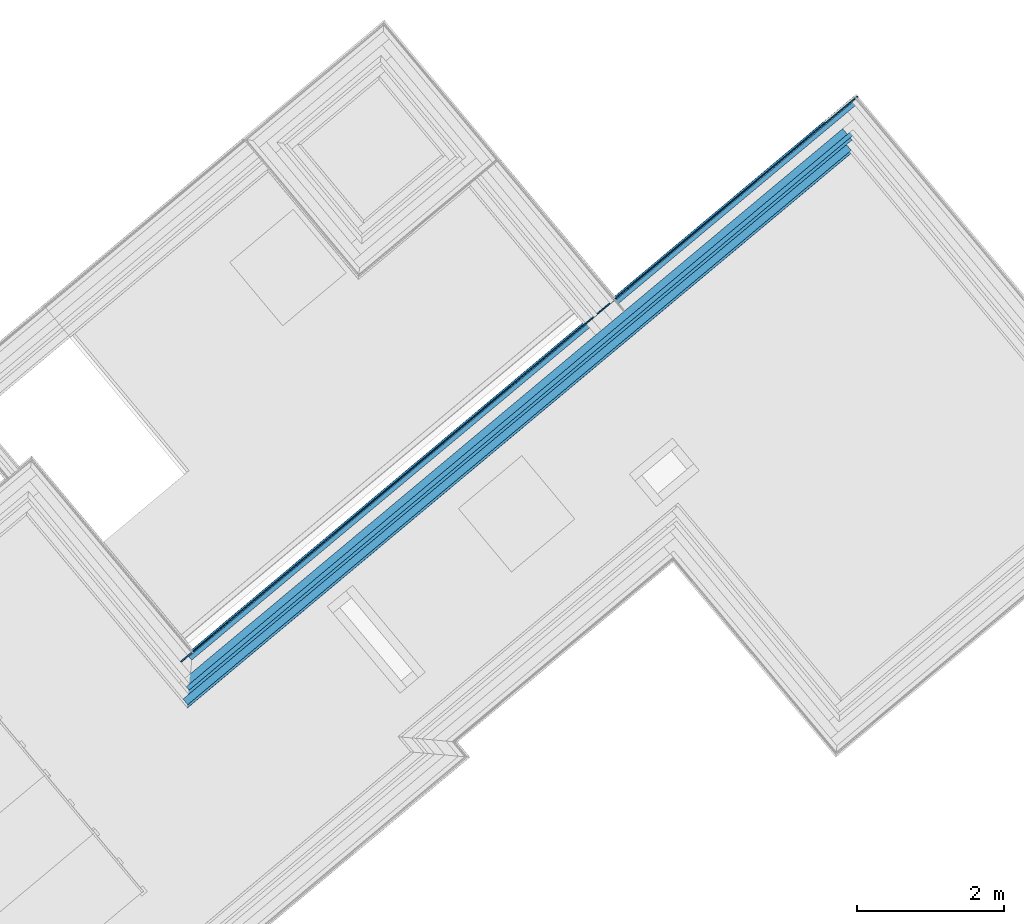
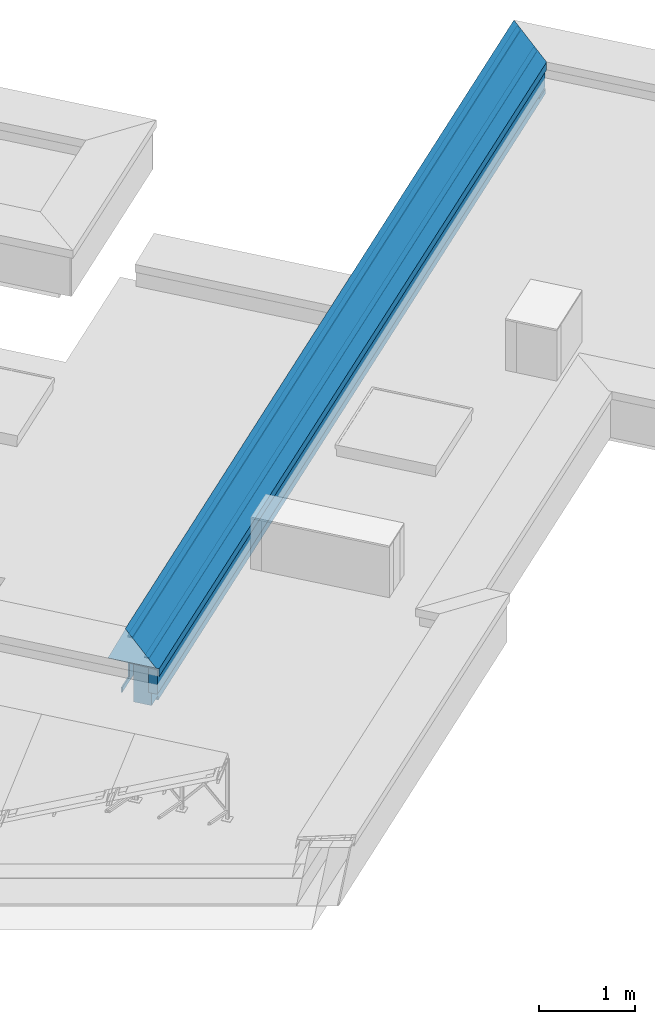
# One storey, part 7 of 15: 7 building element parts, 1 element without a shape of its own.
"""IFC4 building model written with IfcOpenShell, lengths in metres."""

import ifcopenshell
import ifcopenshell.guid

model = None  # the IFC model being written
_history = None  # IfcOwnerHistory: only IFC2X3 demands one
_inside = {}  # id of a spatial element -> (the spatial element, [elements in it])
_under = {}  # id of a project, library or spatial element -> (it, [spatial elements below it])
_declared = {}  # id of a project -> (the project, [libraries it declares])
_typed = {}  # id of a type object -> (the type object, [elements of that type])
_made_of = {}  # id of a material, layer set ... -> (it, [elements and type objects made of it])


def new_model(schema):
    """Start an empty IFC model of exactly this schema.

    Asked for "IFC4X3", IfcOpenShell would pick the latest addendum, in which some entities
    have other attributes; the version numbers below select the first issue.
    IFC2X3 requires an IfcOwnerHistory on every rooted entity: one is made here for all.
    """
    global model, _history
    if schema == "IFC4X3":
        model = ifcopenshell.file(schema_version=(4, 3, 0, 0))
    else:
        model = ifcopenshell.file(schema=schema)
    _inside.clear()
    _under.clear()
    _declared.clear()
    _typed.clear()
    _made_of.clear()
    _history = None
    if model.schema == "IFC2X3":
        org = make("IfcOrganization", Name="unknown")
        user = make(
            "IfcPersonAndOrganization",
            ThePerson=make("IfcPerson", FamilyName="unknown"),
            TheOrganization=org,
        )
        app = make(
            "IfcApplication",
            ApplicationDeveloper=org,
            Version="unknown",
            ApplicationFullName="unknown",
            ApplicationIdentifier="unknown",
        )
        _history = make(
            "IfcOwnerHistory",
            OwningUser=user,
            OwningApplication=app,
            ChangeAction="ADDED",
            CreationDate=0,
        )
    return model


def make(cls, **values):
    """One entity of the class cls with the attributes given. An attribute that is None is left unset."""
    return model.create_entity(
        cls, **{name: value for name, value in values.items() if value is not None}
    )


def entity(cls, *values):
    """Any entity or typed value of the class cls, its attributes in the order of the schema. None: left unset."""
    e = model.create_entity(cls)
    for i, value in enumerate(values):
        if value is not None:
            e[i] = value
    return e


def rooted(cls, **values):
    """An entity with a GlobalId (a new one), such as an element, a storey or a relation."""
    return make(cls, GlobalId=ifcopenshell.guid.new(), OwnerHistory=_history, **values)


def si_unit(unit_type, name, prefix=None):
    """IfcSIUnit, for example si_unit("LENGTHUNIT", "METRE", prefix="MILLI")."""
    return make("IfcSIUnit", UnitType=unit_type, Prefix=prefix, Name=name)


def converted_unit(unit_type, name, factor, base, dimensions=None, offset=None):
    """IfcConversionBasedUnit, such as the inch: factor (a typed value) times the base unit."""
    return make(
        "IfcConversionBasedUnit"
        if offset is None
        else "IfcConversionBasedUnitWithOffset",
        ConversionOffset=offset,
        Dimensions=None
        if dimensions is None
        else entity("IfcDimensionalExponents", *dimensions),
        UnitType=unit_type,
        Name=name,
        ConversionFactor=make(
            "IfcMeasureWithUnit", ValueComponent=factor, UnitComponent=base
        ),
    )


def derived_unit(unit_type, elements):
    """IfcDerivedUnit: a product of units, each with its exponent."""
    return make(
        "IfcDerivedUnit",
        Elements=[
            make("IfcDerivedUnitElement", Unit=unit, Exponent=power)
            for unit, power in elements
        ],
        UnitType=unit_type,
    )


def assignment(units):
    """IfcUnitAssignment: the units of a project."""
    return None if units is None else make("IfcUnitAssignment", Units=units)


def point(xyz):
    """IfcCartesianPoint."""
    return None if xyz is None else make("IfcCartesianPoint", Coordinates=xyz)


def direction(xyz):
    """IfcDirection."""
    return None if xyz is None else make("IfcDirection", DirectionRatios=xyz)


def frame(location, z_axis=None, x_axis=None):
    """IfcAxis2Placement3D, a coordinate frame: its origin and axes. An axis left out is left unset."""
    return make(
        "IfcAxis2Placement3D",
        Location=point(location),
        Axis=direction(z_axis),
        RefDirection=direction(x_axis),
    )


def origin_with_axes():
    """The frame at (0, 0, 0) with the z axis (0, 0, 1) and the x axis (1, 0, 0) written out."""
    return frame((0.0, 0.0, 0.0), z_axis=(0.0, 0.0, 1.0), x_axis=(1.0, 0.0, 0.0))


def place(relative_to, where):
    """IfcLocalPlacement: puts the frame where relative to a parent placement (None: the world)."""
    return make(
        "IfcLocalPlacement", PlacementRelTo=relative_to, RelativePlacement=where
    )


def context(
    kind, dimensions, precision=None, world=None, true_north=None, identifier=None
):
    """IfcGeometricRepresentationContext, for example the 3D "Model" context."""
    return make(
        "IfcGeometricRepresentationContext",
        ContextIdentifier=identifier,
        ContextType=kind,
        CoordinateSpaceDimension=dimensions,
        Precision=precision,
        WorldCoordinateSystem=world,
        TrueNorth=true_north,
    )


def subcontext(parent, identifier, kind, view, scale=None):
    """IfcGeometricRepresentationSubContext, for example "Body" below "Model"."""
    return make(
        "IfcGeometricRepresentationSubContext",
        ContextIdentifier=identifier,
        ContextType=kind,
        ParentContext=parent,
        TargetScale=scale,
        TargetView=view,
    )


def project(units=None, contexts=None):
    """IfcProject with its units and contexts."""
    return rooted(
        "IfcProject",
        Name="project",
        RepresentationContexts=contexts,
        UnitsInContext=assignment(units),
    )


def spatial(cls, under=None, at=None, **own):
    """A site, building, storey or space (cls), placed at a placement, below another one or the project."""
    s = rooted(cls, ObjectPlacement=at, **own)
    if under is not None:
        _under.setdefault(under.id(), (under, []))[1].append(s)
    return s


def point_list(points):
    """IfcCartesianPointList2D or 3D."""
    cls = (
        "IfcCartesianPointList2D" if len(points[0]) == 2 else "IfcCartesianPointList3D"
    )
    return make(cls, CoordList=points)


def polygons(points, faces, closed=None, point_numbers=None):
    """IfcPolygonalFaceSet: a face is its outer loop, then its inner loops; points numbered from 1."""
    made = []
    for loops in faces:
        if len(loops) == 1:
            made.append(make("IfcIndexedPolygonalFace", CoordIndex=loops[0]))
        else:
            made.append(
                make(
                    "IfcIndexedPolygonalFaceWithVoids",
                    CoordIndex=loops[0],
                    InnerCoordIndices=loops[1:],
                )
            )
    return make(
        "IfcPolygonalFaceSet",
        Coordinates=point_list(points),
        Closed=closed,
        Faces=made,
        PnIndex=point_numbers,
    )


def shape(context_of_items, identifier, shape_type, items):
    """IfcShapeRepresentation: the items that make up one representation, for example the "Body"."""
    return make(
        "IfcShapeRepresentation",
        ContextOfItems=context_of_items,
        RepresentationIdentifier=identifier,
        RepresentationType=shape_type,
        Items=items,
    )


def material(Name=None, Category=None):
    """IfcMaterial."""
    return make("IfcMaterial", Name=Name, Category=Category)


def made_of(thing, what):
    """Note that an element or type object is made of a material, layer set ...; save() writes the relation."""
    if what is not None:
        _made_of.setdefault(what.id(), (what, []))[1].append(thing)
    return thing


def type_object(cls, material=None, **own):
    """A type object (cls), such as IfcWallType, which elements share."""
    return made_of(rooted(cls, **own), material)


def element(
    cls,
    number,
    at=None,
    inside=None,
    cuts=None,
    type_object=None,
    material=None,
    context=None,
    identifier="Body",
    shape_type=None,
    held_by="IfcProductDefinitionShape",
    body=None,
    shapes=None,
    **own,
):
    """One element of the class cls, such as IfcWall. Its Tag is "e" and its number.

    at: its placement. inside: the storey or other place that contains it. cuts: it is an
    opening in that element (IfcRelVoidsElement). A single representation is given by context,
    identifier, shape_type and body (its items); several are given by shapes. held_by: the class
    of the entity that holds the representations. save() writes the other relations.
    """
    e = rooted(cls, Tag="e%d" % number, ObjectPlacement=at, **own)
    if body is not None:
        shapes = [shape(context, identifier, shape_type, body)]
    if shapes is not None:
        e.Representation = make(held_by, Representations=shapes)
    if inside is not None:
        _inside.setdefault(inside.id(), (inside, []))[1].append(e)
    if cuts is not None:
        rooted(
            "IfcRelVoidsElement", RelatingBuildingElement=cuts, RelatedOpeningElement=e
        )
    if type_object is not None:
        _typed.setdefault(type_object.id(), (type_object, []))[1].append(e)
    return made_of(e, material)


def aggregate(whole, parts):
    """IfcRelAggregates: a whole, such as a stair, and the parts it consists of."""
    return rooted("IfcRelAggregates", RelatingObject=whole, RelatedObjects=parts)


def save(model, path):
    """Write the relations noted so far, then the file.

    IfcRelAggregates (storeys below a building ...), IfcRelContainedInSpatialStructure (elements
    in a storey), IfcRelDefinesByType, IfcRelAssociatesMaterial and IfcRelDeclares: one each for
    every whole, place, type object, material and project.
    """
    for whole, parts in _under.values():
        aggregate(whole, parts)
    for where, things in _inside.values():
        rooted(
            "IfcRelContainedInSpatialStructure",
            RelatedElements=things,
            RelatingStructure=where,
        )
    for kind, things in _typed.values():
        rooted("IfcRelDefinesByType", RelatedObjects=things, RelatingType=kind)
    for what, things in _made_of.values():
        rooted("IfcRelAssociatesMaterial", RelatedObjects=things, RelatingMaterial=what)
    for by, libraries in _declared.values():
        rooted("IfcRelDeclares", RelatingContext=by, RelatedDefinitions=libraries)
    model.write(path)


model = new_model("IFC4")

# Units and contexts
model_context = context("Model", 3, precision=1e-05, world=origin_with_axes(), true_north=direction((0.0, 1.0)))
body_context = subcontext(model_context, "Body", "Model", "MODEL_VIEW")
ifc_project = project(units=[si_unit("LENGTHUNIT", "METRE"), si_unit("AREAUNIT", "SQUARE_METRE"), si_unit("VOLUMEUNIT", "CUBIC_METRE"), converted_unit("PLANEANGLEUNIT", "DEGREE", entity("IfcPlaneAngleMeasure", 0.0174532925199), si_unit("PLANEANGLEUNIT", "RADIAN"), dimensions=[0, 0, 0, 0, 0, 0, 0]), converted_unit("TIMEUNIT", "Year", entity("IfcTimeMeasure", 31556926.0), si_unit("TIMEUNIT", "SECOND"), dimensions=[0, 0, 1, 0, 0, 0, 0]), si_unit("MASSUNIT", "GRAM", prefix="KILO"), si_unit("THERMODYNAMICTEMPERATUREUNIT", "DEGREE_CELSIUS"), si_unit("LUMINOUSINTENSITYUNIT", "LUMEN"), si_unit("ENERGYUNIT", "JOULE", prefix="MEGA"), derived_unit("THERMALCONDUCTANCEUNIT", [(si_unit("POWERUNIT", "WATT"), 1), (si_unit("LENGTHUNIT", "METRE"), -1), (si_unit("THERMODYNAMICTEMPERATUREUNIT", "KELVIN"), -1)]), derived_unit("SPECIFICHEATCAPACITYUNIT", [(si_unit("ENERGYUNIT", "JOULE"), 1), (si_unit("MASSUNIT", "GRAM", prefix="KILO"), -1), (si_unit("THERMODYNAMICTEMPERATUREUNIT", "KELVIN"), -1)]), derived_unit("MASSDENSITYUNIT", [(si_unit("MASSUNIT", "GRAM", prefix="KILO"), 1), (si_unit("VOLUMEUNIT", "CUBIC_METRE"), -1)])], contexts=[model_context])

# Site, building, storey
site_placement = place(None, frame((-0.00153261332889, -0.00661245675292, 0.0), z_axis=(0.0, 0.0, 1.0), x_axis=(1.0, 0.0, 0.0)))
site = spatial("IfcSite", under=ifc_project, at=site_placement, Name="Site", CompositionType="ELEMENT")
building_placement = place(site_placement, origin_with_axes())
building = spatial("IfcBuilding", under=site, at=building_placement, Name="Building", CompositionType="ELEMENT")
storey_placement = place(building_placement, frame((0.0, 0.0, 11.84), z_axis=(0.0, 0.0, 1.0), x_axis=(1.0, 0.0, 0.0)))
storey = spatial("IfcBuildingStorey", under=building, at=storey_placement, Name="DA", CompositionType="ELEMENT", Elevation=11.84)

# Wall, building element parts
wall_type = type_object("IfcWallType", Name="Bauteil - Attika Stehfalz 574 x 670", PredefinedType="NOTDEFINED")
wall_placement = place(storey_placement, frame((-0.976428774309, 18.8021580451, 0.0), z_axis=(0.0, 0.0, 1.0), x_axis=(0.767365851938, 0.641209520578, 0.0)))
wall = element("IfcWall", 1, at=wall_placement, inside=storey, type_object=wall_type, Name="Wand-004", PredefinedType="NOTDEFINED")
ifc_material_1 = material(Name="Stehfalz")
building_element_part_1_placement = place(wall_placement, origin_with_axes())
building_element_part_1 = element("IfcBuildingElementPart", 2, at=building_element_part_1_placement, material=ifc_material_1, Name="Stehfalz", PredefinedType="NOTDEFINED", context=body_context, shape_type="Tessellation", body=[
    polygons([(0.0, 0.199999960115, -2.38708075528e-09), (0.0, 0.214999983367, -2.38708075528e-09), (0.0, 0.214999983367, -0.06), (0.0, 0.199999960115, -0.06), (0.19999996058, 0.214999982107, 0.0), (0.19999996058, 0.199999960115, 0.0), (5.43008096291, 0.214999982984, -0.06), (0.214999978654, 0.214999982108, 0.0), (0.214999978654, 0.21499998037, 0.235000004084), (0.214999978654, 0.214999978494, 0.488695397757), (0.214999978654, 0.214999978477, 0.491006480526), (0.214999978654, 0.214999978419, 0.498822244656), (0.214999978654, 0.214999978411, 0.5), (0.214999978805, 0.214999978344, 0.509050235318), (0.214999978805, 0.214999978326, 0.51136132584), (0.214999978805, 0.214999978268, 0.519224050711), (0.214999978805, 0.214999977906, 0.55999999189), (12.002251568, 0.214999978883, 0.55999999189), (12.0022489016, 0.214999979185, 0.519224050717), (11.9943856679, 0.214999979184, 0.51922405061), (11.9934753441, 0.214999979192, 0.518219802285), (12.000333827, 0.214999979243, 0.511361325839), (12.0026449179, 0.214999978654, 0.509050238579), (11.9771019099, 0.214999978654, 0.509050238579), (11.9771019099, 0.214999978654, 0.50000001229), (11.962101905, 0.214999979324, 0.5), (11.962101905, 0.214999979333, 0.498822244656), (11.962101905, 0.214999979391, 0.491006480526), (11.962101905, 0.214999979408, 0.488695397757), (11.962101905, 0.214999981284, 0.235000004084), (11.962101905, 0.214999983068, 0.0), (11.7621019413, 0.214999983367, -2.38708075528e-09), (11.7621019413, 0.214999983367, -0.06), (7.69580420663, 0.214999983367, -0.06), (7.69580420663, 0.214999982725, -0.00130460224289), (7.69580420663, 0.214999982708, 0.00100648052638), (7.69580420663, 0.214999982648, 0.00882224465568), (7.69580420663, 0.214999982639, 0.01), (7.69580420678, 0.214999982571, 0.0190502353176), (7.72134721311, 0.214999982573, 0.0190502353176), (7.72230448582, 0.214999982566, 0.0200075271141), (7.722304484, 0.214999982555, 0.0213613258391), (7.722304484, 0.214999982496, 0.0292240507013), (7.722304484, 0.214999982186, 0.0699999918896), (7.722304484, 0.214999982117, 0.0779479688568), (7.722304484, 0.214999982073, 0.0838806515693), (7.722304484, 0.214999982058, 0.0859797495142), (7.722304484, 0.214999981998, 0.0940158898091), (7.722304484, 0.214999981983, 0.0961062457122), (7.722304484, 0.214999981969, 0.0979374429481), (7.722304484, 0.214999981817, 0.118570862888), (7.722304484, 0.214999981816, 0.118602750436), (7.722304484, 0.214999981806, 0.120006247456), (7.68353486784, 0.214999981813, 0.11860275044), (7.68265402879, 0.214999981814, 0.118570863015), (7.14875228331, 0.214999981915, 0.0992431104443), (7.14875228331, 0.214999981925, 0.0979374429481), (7.14875228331, 0.214999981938, 0.0961062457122), (7.14875228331, 0.214999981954, 0.0940158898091), (7.14875228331, 0.214999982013, 0.0859797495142), (7.14875228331, 0.214999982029, 0.0838806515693), (7.14875228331, 0.214999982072, 0.0779479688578), (7.14875228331, 0.214999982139, 0.0699999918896), (7.14875228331, 0.214999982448, 0.0292240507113), (7.14875228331, 0.214999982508, 0.0213613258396), (7.14875228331, 0.214999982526, 0.0190502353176), (7.14875228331, 0.214999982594, 0.00999999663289), (7.14875228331, 0.214999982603, 0.00882224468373), (7.14875228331, 0.214999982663, 0.00100648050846), (7.14875228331, 0.214999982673, -0.00034732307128), (7.14970957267, 0.21499998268, -0.00130459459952), (7.18080417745, 0.214999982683, -0.00130460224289), (7.18080417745, 0.214999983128, -0.06), (5.63008098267, 0.214999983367, -0.06), (5.63008098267, 0.214999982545, 0.0), (5.43008096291, 0.214999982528, 0.0), (5.43007429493, 0.199999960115, -0.06), (5.43007429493, 0.199999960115, 0.0), (5.63007431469, 0.199999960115, 0.0), (5.63007431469, 0.199999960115, -0.06), (7.18079765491, 0.199999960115, -0.06), (7.18079765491, 0.199999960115, -0.00130460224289), (7.14970305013, 0.199999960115, -0.00130459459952), (7.14874576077, 0.199999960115, -0.00034732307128), (7.14874576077, 0.199999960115, 0.00100648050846), (7.14874576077, 0.199999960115, 0.00882224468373), (7.14874576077, 0.199999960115, 0.00999999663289), (7.14874576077, 0.199999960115, 0.0190502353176), (7.14874576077, 0.199999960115, 0.0213613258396), (7.14874576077, 0.199999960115, 0.0292240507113), (7.14874576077, 0.199999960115, 0.0699999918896), (7.14874576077, 0.199999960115, 0.0779479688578), (7.14874576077, 0.199999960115, 0.0838806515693), (7.14874576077, 0.199999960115, 0.0859797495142), (7.14874576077, 0.199999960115, 0.0940158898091), (7.14874576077, 0.199999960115, 0.0961062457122), (7.14874576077, 0.199999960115, 0.0979374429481), (7.14874576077, 0.199999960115, 0.0992431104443), (7.68264750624, 0.199999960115, 0.118570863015), (7.68352834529, 0.199999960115, 0.11860275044), (7.72229796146, 0.199999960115, 0.120006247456), (7.72229796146, 0.199999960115, 0.118602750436), (7.72229796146, 0.199999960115, 0.118570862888), (7.72229796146, 0.199999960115, 0.0979374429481), (7.72229796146, 0.199999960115, 0.0961062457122), (7.72229796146, 0.199999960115, 0.0940158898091), (7.72229796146, 0.199999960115, 0.0859797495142), (7.72229796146, 0.199999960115, 0.0838806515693), (7.72229796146, 0.199999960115, 0.0779479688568), (7.72229796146, 0.199999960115, 0.0699999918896), (7.72229796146, 0.199999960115, 0.0292240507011), (7.72229796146, 0.199999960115, 0.0213613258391), (7.72229796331, 0.199999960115, 0.0200075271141), (7.72134069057, 0.199999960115, 0.0190502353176), (7.69579768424, 0.199999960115, 0.0190502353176), (7.69579768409, 0.199999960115, 0.01), (7.69579768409, 0.199999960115, 0.00882224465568), (7.69579768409, 0.199999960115, 0.00100648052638), (7.69579768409, 0.199999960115, -0.00130460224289), (7.69579768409, 0.199999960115, -0.06), (11.7621019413, 0.199999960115, -0.06), (11.7621019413, 0.199999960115, -2.38708075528e-09), (11.962101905, 0.199999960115, 0.0), (11.962101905, 0.199999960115, 0.235000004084), (11.962101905, 0.199999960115, 0.488695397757), (11.962101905, 0.199999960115, 0.491006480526), (11.962101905, 0.199999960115, 0.498822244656), (11.962101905, 0.199999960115, 0.5), (11.9771019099, 0.199999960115, 0.50000001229), (11.9771019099, 0.199999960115, 0.509050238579), (12.0026449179, 0.199999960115, 0.509050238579), (12.000333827, 0.199999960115, 0.511361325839), (11.9934753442, 0.199999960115, 0.518219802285), (11.9943856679, 0.199999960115, 0.51922405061), (12.0022489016, 0.199999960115, 0.519224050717), (12.002251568, 0.199999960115, 0.55999999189), (0.214999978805, 0.199999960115, 0.55999999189), (0.214999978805, 0.199999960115, 0.519224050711), (0.214999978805, 0.199999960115, 0.51136132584), (0.214999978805, 0.199999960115, 0.509050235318), (0.214999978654, 0.199999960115, 0.5), (0.214999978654, 0.199999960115, 0.498822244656), (0.214999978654, 0.199999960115, 0.491006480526), (0.214999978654, 0.199999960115, 0.488695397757), (0.214999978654, 0.199999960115, 0.235000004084), (0.214999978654, 0.199999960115, 0.0)], [[[1, 2, 3, 4]], [[5, 2, 1, 6]], [[7, 3, 2, 5, 8, 9, 10, 11, 12, 13, 14, 15, 16, 17, 18, 19, 20, 21, 22, 23, 24, 25, 26, 27, 28, 29, 30, 31, 32, 33, 34, 35, 36, 37, 38, 39, 40, 41, 42, 43, 44, 45, 46, 47, 48, 49, 50, 51, 52, 53, 54, 55, 56, 57, 58, 59, 60, 61, 62, 63, 64, 65, 66, 67, 68, 69, 70, 71, 72, 73, 74, 75, 76]], [[77, 4, 3, 7]], [[6, 1, 4, 77, 78, 79, 80, 81, 82, 83, 84, 85, 86, 87, 88, 89, 90, 91, 92, 93, 94, 95, 96, 97, 98, 99, 100, 101, 102, 103, 104, 105, 106, 107, 108, 109, 110, 111, 112, 113, 114, 115, 116, 117, 118, 119, 120, 121, 122, 123, 124, 125, 126, 127, 128, 129, 130, 131, 132, 133, 134, 135, 136, 137, 138, 139, 140, 141, 142, 143, 144, 145, 146]], [[5, 6, 146, 8]], [[8, 146, 145, 9]], [[9, 145, 144, 10]], [[10, 144, 143, 11]], [[11, 143, 142, 12]], [[12, 142, 141, 13]], [[13, 141, 140, 14]], [[14, 140, 139, 15]], [[15, 139, 138, 16]], [[16, 138, 137, 17]], [[18, 17, 137, 136]], [[136, 135, 19, 18]], [[134, 20, 19, 135]], [[20, 134, 133, 21]], [[21, 133, 132, 22]], [[131, 23, 22, 132]], [[131, 130, 24, 23]], [[130, 129, 25, 24]], [[129, 128, 26, 25]], [[128, 127, 27, 26]], [[27, 127, 126, 28]], [[28, 126, 125, 29]], [[29, 125, 124, 30]], [[124, 123, 31, 30]], [[123, 122, 32, 31]], [[32, 122, 121, 33]], [[121, 120, 34, 33]], [[35, 34, 120, 119]], [[36, 35, 119, 118]], [[37, 36, 118, 117]], [[117, 116, 38, 37]], [[39, 38, 116, 115]], [[40, 39, 115, 114]], [[40, 114, 113, 41]], [[41, 113, 112, 42]], [[42, 112, 111, 43]], [[43, 111, 110, 44]], [[109, 45, 44, 110]], [[108, 46, 45, 109]], [[107, 47, 46, 108]], [[106, 48, 47, 107]], [[105, 49, 48, 106]], [[104, 50, 49, 105]], [[103, 51, 50, 104]], [[102, 52, 51, 103]], [[101, 53, 52, 102]], [[101, 100, 54, 53]], [[100, 99, 55, 54]], [[99, 98, 56, 55]], [[97, 57, 56, 98]], [[96, 58, 57, 97]], [[95, 59, 58, 96]], [[94, 60, 59, 95]], [[93, 61, 60, 94]], [[92, 62, 61, 93]], [[91, 63, 62, 92]], [[90, 64, 63, 91]], [[89, 65, 64, 90]], [[88, 66, 65, 89]], [[87, 67, 66, 88]], [[86, 68, 67, 87]], [[85, 69, 68, 86]], [[84, 70, 69, 85]], [[71, 70, 84, 83]], [[72, 71, 83, 82]], [[81, 73, 72, 82]], [[81, 80, 74, 73]], [[79, 75, 74, 80]], [[79, 78, 76, 75]], [[78, 77, 7, 76]]], closed=True),
])
ifc_material_2 = material(Name="Vollholz")
building_element_part_2_placement = place(wall_placement, origin_with_axes())
building_element_part_2 = element("IfcBuildingElementPart", 3, at=building_element_part_2_placement, material=ifc_material_2, Name="Vollholz", PredefinedType="NOTDEFINED", context=body_context, shape_type="Tessellation", body=[
    polygons([(0.130124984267, 0.130124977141, 0.575979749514), (0.130124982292, 0.130124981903, 0.584015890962), (0.130124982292, 0.189996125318, 0.584015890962), (0.130124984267, 0.190039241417, 0.575979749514), (0.130124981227, 0.130124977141, 0.567947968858), (0.130124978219, 0.130124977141, 0.560000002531), (11.8922269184, 0.130124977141, 0.560000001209), (11.8922269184, 0.130124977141, 0.567947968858), (11.8922269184, 0.130124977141, 0.573880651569), (11.8922269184, 0.130124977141, 0.575979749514), (11.8922269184, 0.130124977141, 0.584015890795), (0.130124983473, 0.130124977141, 0.573880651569), (0.18998490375, 0.189984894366, 0.586106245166), (11.9520871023, 0.189984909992, 0.586106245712), (11.8922269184, 0.189996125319, 0.584015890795), (11.8922269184, 0.190039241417, 0.575979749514), (11.8922269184, 0.190050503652, 0.573880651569), (11.8922269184, 0.190082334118, 0.567947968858), (11.8922269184, 0.190124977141, 0.560000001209), (0.130124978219, 0.190124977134, 0.560000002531), (0.130124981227, 0.190082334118, 0.567947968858), (0.130124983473, 0.190050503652, 0.573880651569)], [[[1, 2, 3, 4]], [[5, 6, 7, 8, 9, 10, 11, 2, 1, 12]], [[3, 2, 13]], [[4, 3, 13, 14, 15, 16, 17, 18, 19, 20, 21, 22]], [[12, 1, 4, 22]], [[6, 5, 21, 20]], [[6, 20, 19, 7]], [[7, 19, 18, 8]], [[9, 8, 18, 17]], [[10, 9, 17, 16]], [[16, 15, 11, 10]], [[2, 11, 14, 13]], [[5, 12, 22, 21]], [[11, 15, 14]]], closed=True),
])
building_element_part_3_placement = place(wall_placement, origin_with_axes())
building_element_part_3 = element("IfcBuildingElementPart", 4, at=building_element_part_3_placement, material=ifc_material_2, Name="Vollholz", PredefinedType="NOTDEFINED", context=body_context, shape_type="Tessellation", body=[
    polygons([(-0.160110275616, -0.1, 0.573880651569), (-0.0999999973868, -0.1, 0.575979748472), (11.6621019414, -0.1, 0.575979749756), (11.6019917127, -0.1, 0.573880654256), (11.6020388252, -0.1, 0.567947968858), (11.6021019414, -0.1, 0.560000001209), (-0.159999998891, -0.1, 0.560000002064), (-0.160063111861, -0.1, 0.567947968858), (-0.160110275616, -0.160110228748, 0.573880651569), (11.6019917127, -0.160110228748, 0.573880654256), (11.6020388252, -0.160063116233, 0.567947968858), (11.6021019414, -0.16, 0.560000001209), (-0.159999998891, -0.16, 0.560000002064), (-0.160063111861, -0.160063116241, 0.567947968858)], [[[1, 2, 3, 4, 5, 6, 7, 8]], [[9, 2, 1]], [[2, 9, 10, 3]], [[4, 3, 10]], [[4, 10, 11, 5]], [[5, 11, 12, 6]], [[13, 7, 6, 12]], [[14, 8, 7, 13]], [[9, 1, 8, 14]], [[9, 14, 13, 12, 11, 10]]], closed=True),
])
ifc_material_3 = material(Name="Stahlbeton Wand Garage")
building_element_part_4_placement = place(wall_placement, origin_with_axes())
building_element_part_4 = element("IfcBuildingElementPart", 5, at=building_element_part_4_placement, material=ifc_material_3, Name="Stahlbeton Wand Garage", PredefinedType="NOTDEFINED", context=body_context, shape_type="Tessellation", body=[
    polygons([(-0.200000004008, 0.0, 0.499999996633), (-0.200000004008, -0.2, 0.499999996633), (11.5621019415, -0.2, 0.5), (11.5621019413, 0.0, 0.5), (-0.200000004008, -0.20000000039, 0.498822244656), (-0.200000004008, 0.0, 0.498822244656), (-0.200000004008, -0.20000000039, 0.491006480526), (-0.200000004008, -0.20000000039, 0.488695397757), (-0.200000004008, -0.20000000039, 0.235000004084), (11.5621019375, -0.20000000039, 0.235000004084), (11.5621019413, -0.20000000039, 0.488695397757), (11.5621019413, -0.20000000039, 0.491006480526), (11.5621019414, -0.20000000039, 0.498822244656), (11.5621019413, 0.0, 0.498822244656), (11.5621019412, 0.0, 0.491006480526), (11.5621019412, 0.0, 0.488695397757), (11.5621019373, 0.0, 0.235000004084), (11.5621019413, 0.0, 0.0), (11.7621019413, 0.0, 0.0), (11.7621019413, 0.0, -0.06), (0.0, 0.0, -0.06), (0.0, 0.0, -2.38708075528e-09), (-0.200000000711, 0.0, -2.38708075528e-09), (-0.200000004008, 0.0, 0.235000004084), (-0.200000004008, 0.0, 0.488695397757), (-0.200000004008, 0.0, 0.491006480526), (11.5621019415, -0.200000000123, 0.0), (-0.200000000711, -0.200000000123, -2.38708075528e-09), (0.0, -0.200000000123, -2.38708075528e-09), (0.0, -0.200000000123, -0.06), (11.7621019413, -0.200000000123, -0.06), (11.7621019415, -0.200000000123, 0.0)], [[[1, 2, 3, 4]], [[5, 2, 1, 6]], [[2, 5, 7, 8, 9, 10, 11, 12, 13, 3]], [[4, 3, 13, 14]], [[6, 1, 4, 14, 15, 16, 17, 18, 19, 20, 21, 22, 23, 24, 25, 26]], [[5, 6, 26, 7]], [[7, 26, 25, 8]], [[8, 25, 24, 9]], [[27, 10, 9, 28, 29, 30, 31, 32]], [[16, 11, 10, 17]], [[15, 12, 11, 16]], [[14, 13, 12, 15]], [[17, 10, 27, 18]], [[27, 32, 19, 18]], [[19, 32, 31, 20]], [[21, 20, 31, 30]], [[21, 30, 29, 22]], [[22, 29, 28, 23]], [[9, 24, 23, 28]]], closed=True),
])
ifc_material_4 = material(Name="EPS 1")
building_element_part_5_placement = place(wall_placement, origin_with_axes())
building_element_part_5 = element("IfcBuildingElementPart", 6, at=building_element_part_5_placement, material=ifc_material_4, Name="EPS 1", PredefinedType="NOTDEFINED", context=body_context, shape_type="Tessellation", body=[
    polygons([(-0.299999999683, -0.20000000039, 0.560000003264), (-0.299999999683, -0.300000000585, 0.560000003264), (11.4621019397, -0.300000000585, 0.560000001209), (11.4621019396, -0.20000000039, 0.560000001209), (-0.30000000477, -0.300000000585, 0.519224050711), (-0.30000000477, -0.20000000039, 0.519224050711), (-0.300000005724, -0.300000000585, 0.51136132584), (-0.300000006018, -0.300000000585, 0.509050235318), (-0.300000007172, -0.300000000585, 0.499999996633), (-0.300000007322, -0.300000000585, 0.498822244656), (-0.300000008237, -0.300000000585, 0.491006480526), (-0.300000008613, -0.300000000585, 0.4886954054), (-0.30000000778, -0.300000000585, 0.23500000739), (11.4621019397, -0.300000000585, 0.235000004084), (11.4621019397, -0.300000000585, 0.488695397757), (11.4621019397, -0.300000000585, 0.491006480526), (11.4621019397, -0.300000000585, 0.498822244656), (11.4621019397, -0.300000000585, 0.499999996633), (11.4621019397, -0.300000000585, 0.509050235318), (11.4621019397, -0.300000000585, 0.51136132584), (11.4621019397, -0.300000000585, 0.519224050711), (11.4621019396, -0.20000000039, 0.519224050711), (11.4621019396, -0.20000000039, 0.51136132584), (11.4621019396, -0.20000000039, 0.509050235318), (11.4621019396, -0.20000000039, 0.499999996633), (11.4621019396, -0.20000000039, 0.498822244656), (11.4621019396, -0.20000000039, 0.491006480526), (11.4621019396, -0.20000000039, 0.488695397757), (11.4621019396, -0.20000000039, 0.235000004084), (-0.30000000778, -0.20000000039, 0.23500000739), (-0.300000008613, -0.20000000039, 0.4886954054), (-0.300000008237, -0.20000000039, 0.491006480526), (-0.300000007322, -0.20000000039, 0.498822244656), (-0.300000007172, -0.20000000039, 0.499999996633), (-0.300000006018, -0.20000000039, 0.509050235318), (-0.300000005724, -0.20000000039, 0.51136132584)], [[[1, 2, 3, 4]], [[5, 2, 1, 6]], [[2, 5, 7, 8, 9, 10, 11, 12, 13, 14, 15, 16, 17, 18, 19, 20, 21, 3]], [[4, 3, 21, 22]], [[6, 1, 4, 22, 23, 24, 25, 26, 27, 28, 29, 30, 31, 32, 33, 34, 35, 36]], [[5, 6, 36, 7]], [[7, 36, 35, 8]], [[8, 35, 34, 9]], [[9, 34, 33, 10]], [[10, 33, 32, 11]], [[11, 32, 31, 12]], [[12, 31, 30, 13]], [[29, 14, 13, 30]], [[28, 15, 14, 29]], [[27, 16, 15, 28]], [[26, 17, 16, 27]], [[25, 18, 17, 26]], [[24, 19, 18, 25]], [[23, 20, 19, 24]], [[22, 21, 20, 23]]], closed=True),
])
ifc_material_5 = material(Name="Holzwerkstoff")
building_element_part_6_placement = place(wall_placement, origin_with_axes())
building_element_part_6 = element("IfcBuildingElementPart", 7, at=building_element_part_6_placement, material=ifc_material_5, Name="Holzwerkstoff", PredefinedType="NOTDEFINED", context=body_context, shape_type="Tessellation", body=[
    polygons([(-0.330207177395, -0.160110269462, 0.573880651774), (-0.329999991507, -0.329999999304, 0.567947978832), (-0.330207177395, -0.330207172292, 0.573880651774), (11.4318947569, -0.160110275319, 0.573880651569), (11.4321019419, -0.329999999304, 0.567947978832), (-0.330634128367, -0.330634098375, 0.586106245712), (-0.330561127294, -0.330561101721, 0.584015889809), (-0.330280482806, -0.330280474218, 0.575979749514), (11.431894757, -0.330207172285, 0.573880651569), (11.4318214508, -0.330280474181, 0.575979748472), (11.4315408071, -0.330561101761, 0.584015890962), (11.4314678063, -0.330634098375, 0.586106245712), (11.4314038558, -0.330698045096, 0.587937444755), (-0.330665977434, -0.330698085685, 0.587938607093), (-0.330698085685, -0.330698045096, 0.587937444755), (-0.330280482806, -0.10000001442, 0.575979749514), (11.4318214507, -0.100000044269, 0.575979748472), (-0.330634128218, 0.189984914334, 0.586106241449), (-0.330561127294, 0.130125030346, 0.584015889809), (11.4315408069, 0.130125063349, 0.584015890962), (11.431467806, 0.189985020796, 0.586106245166), (11.4314068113, 0.239999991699, 0.587852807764), (11.4314038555, 0.23999703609, 0.587937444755), (0.239276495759, 0.239276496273, 0.608570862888), (12.0013783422, 0.239276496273, 0.608570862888), (-0.330698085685, 0.23999703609, 0.587937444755), (-0.330698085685, 0.239999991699, 0.587852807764)], [[[1, 2, 3]], [[2, 1, 4, 5]], [[6, 7, 8, 3, 2, 5, 9, 10, 11, 12, 13, 14, 15]], [[16, 1, 3, 8]], [[1, 16, 17, 4]], [[5, 4, 9]], [[7, 6, 18, 19]], [[8, 7, 19, 16]], [[4, 17, 10, 9]], [[17, 20, 11, 10]], [[20, 21, 12, 11]], [[13, 12, 21, 22, 23]], [[24, 14, 13, 25]], [[15, 14, 24, 26]], [[6, 15, 26, 27, 18]], [[16, 19, 20, 17]], [[19, 18, 21, 20]], [[18, 27, 22, 21]], [[27, 26, 24, 25, 23, 22]], [[25, 13, 23]]], closed=True),
])
ifc_material_6 = material(Name="Stahl")
building_element_part_7_placement = place(wall_placement, origin_with_axes())
building_element_part_7 = element("IfcBuildingElementPart", 8, at=building_element_part_7_placement, material=ifc_material_6, Name="Stahl", PredefinedType="NOTDEFINED", context=body_context, shape_type="Tessellation", body=[
    polygons([(-0.332051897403, -0.332051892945, 0.489652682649), (-0.332051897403, -0.330137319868, 0.489652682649), (-0.33109461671, -0.331094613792, 0.488695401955), (-0.332051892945, -0.332051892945, 0.498822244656), (-0.332051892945, -0.330698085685, 0.498822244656), (-0.332051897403, -0.330698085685, 0.491006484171), (-0.332051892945, -0.328783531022, 0.491006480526), (-0.33069808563, -0.328783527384, 0.491006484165), (-0.323792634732, -0.321878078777, 0.497911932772), (11.4383093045, -0.321878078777, 0.497911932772), (11.4314038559, -0.328783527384, 0.491006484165), (11.4300500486, -0.328783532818, 0.491006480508), (11.4300500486, -0.330137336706, 0.489652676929), (11.4310073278, -0.331094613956, 0.488695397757), (11.4300500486, -0.332051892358, 0.489652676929), (11.4300500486, -0.332051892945, 0.491006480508), (11.4300500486, -0.332051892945, 0.498822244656), (11.4300500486, -0.332051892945, 0.499999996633), (11.4300500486, -0.332051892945, 0.509050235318), (11.4300500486, -0.332051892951, 0.511361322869), (11.4300500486, -0.33205189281, 0.519224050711), (11.4300500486, -0.332051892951, 0.559999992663), (11.4300500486, -0.332051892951, 0.567947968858), (11.4300500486, -0.332051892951, 0.573880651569), (11.4300500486, -0.332051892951, 0.575979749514), (11.4300500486, -0.332051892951, 0.584015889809), (11.4300500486, -0.332051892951, 0.586106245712), (11.4300500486, -0.332051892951, 0.587937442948), (11.4300500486, -0.332051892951, 0.589243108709), (-0.332051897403, -0.332051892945, 0.589243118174), (-0.332051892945, -0.332051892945, 0.499999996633), (-0.330698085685, -0.332051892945, 0.499999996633), (-0.330698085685, -0.332051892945, 0.498822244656), (-0.330698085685, -0.330698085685, 0.498822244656), (-0.33069808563, -0.330698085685, 0.491006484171), (-0.330698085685, -0.330698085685, 0.499999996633), (-0.332051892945, -0.330698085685, 0.499999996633), (-0.332051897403, -0.330698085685, 0.587937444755), (11.4300500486, -0.330698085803, 0.587937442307), (11.4300500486, -0.330698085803, 0.586106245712), (11.4300500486, -0.330698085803, 0.584015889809), (11.4300500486, -0.330698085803, 0.575979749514), (11.4300500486, -0.330698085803, 0.573880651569), (11.4300500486, -0.330698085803, 0.567947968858), (11.4300500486, -0.330698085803, 0.559999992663), (11.4300500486, -0.330698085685, 0.519224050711), (11.4300500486, -0.330698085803, 0.511361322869), (11.4300500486, -0.330698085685, 0.509050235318), (11.4300500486, -0.330698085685, 0.499999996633), (11.4300500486, -0.330698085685, 0.498822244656), (11.4300500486, -0.330698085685, 0.49100648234), (-0.322882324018, -0.32288233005, 0.498822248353), (11.4392196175, -0.32288233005, 0.498822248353), (11.4314038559, -0.330698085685, 0.491006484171), (11.4300500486, -0.294630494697, 0.589243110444), (0.241500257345, 0.241500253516, 0.610006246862), (11.9639517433, 0.201849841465, 0.608570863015), (11.9648325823, 0.202730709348, 0.608602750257), (12.0036021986, 0.241500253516, 0.610006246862), (-0.332051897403, -0.29463035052, 0.589243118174), (0.201849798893, 0.239276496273, 0.608570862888), (11.9639517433, 0.239276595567, 0.608570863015), (0.20273064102, 0.241500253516, 0.608602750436), (0.202730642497, 0.240152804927, 0.608602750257), (11.9648325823, 0.240152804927, 0.608602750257), (11.9648325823, 0.241500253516, 0.608602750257), (0.239585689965, 0.241500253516, 0.510007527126), (0.23823188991, 0.241500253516, 0.51136132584), (0.240146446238, 0.241500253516, 0.51136132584), (0.240146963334, 0.241500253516, 0.51922405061), (0.240149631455, 0.241500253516, 0.559999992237), (0.240150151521, 0.241500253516, 0.567947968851), (0.240150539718, 0.241500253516, 0.573880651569), (0.24015067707, 0.241500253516, 0.575979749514), (0.240151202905, 0.241500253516, 0.584015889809), (0.240151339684, 0.241500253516, 0.586106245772), (0.240151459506, 0.241500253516, 0.587937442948), (0.240152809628, 0.241500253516, 0.608570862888), (0.240152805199, 0.241500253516, 0.608602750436), (12.0022547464, 0.241500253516, 0.608602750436), (12.002254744, 0.241500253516, 0.608570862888), (12.0022533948, 0.241500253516, 0.587937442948), (12.0022532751, 0.241500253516, 0.586106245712), (12.0022531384, 0.241500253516, 0.584015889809), (12.0022526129, 0.241500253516, 0.575979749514), (12.0022524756, 0.241500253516, 0.573880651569), (12.0022520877, 0.241500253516, 0.567947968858), (12.002251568, 0.241500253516, 0.55999999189), (12.0022489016, 0.241500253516, 0.519224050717), (12.0022483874, 0.241500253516, 0.51136132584), (12.000333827, 0.241500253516, 0.511361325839), (12.001687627, 0.241500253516, 0.510007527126), (0.240152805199, 0.240152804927, 0.608602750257), (12.0022547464, 0.240152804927, 0.608602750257), (0.238231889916, 0.240146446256, 0.51136132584), (0.240542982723, 0.240542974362, 0.509050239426), (0.23823188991, 0.238231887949, 0.51136132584), (0.240146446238, 0.240146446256, 0.51136132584), (0.240146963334, 0.240146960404, 0.51922405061), (0.240149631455, 0.240149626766, 0.559999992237), (0.240150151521, 0.240150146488, 0.567947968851), (0.240150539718, 0.24015053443, 0.573880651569), (0.24015067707, 0.240150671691, 0.575979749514), (0.240151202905, 0.240151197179, 0.584015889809), (0.240151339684, 0.240151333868, 0.586106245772), (0.240151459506, 0.240151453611, 0.587937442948), (0.240152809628, 0.240152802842, 0.608570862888), (12.002254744, 0.240152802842, 0.608570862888), (12.0022533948, 0.240151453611, 0.587937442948), (12.0022532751, 0.240151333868, 0.586106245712), (12.0022531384, 0.240151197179, 0.584015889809), (12.0022526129, 0.240150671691, 0.575979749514), (12.0022524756, 0.24015053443, 0.573880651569), (12.0022520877, 0.240150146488, 0.567947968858), (12.002251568, 0.240149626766, 0.55999999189), (12.0022489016, 0.240146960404, 0.519224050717), (12.0022483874, 0.240146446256, 0.51136132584), (12.000333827, 0.240146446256, 0.511361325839), (12.000333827, 0.238231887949, 0.51136132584), (12.0026449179, 0.240542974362, 0.509050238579), (0.231373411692, 0.231373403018, 0.518219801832), (11.9934753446, 0.231373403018, 0.518219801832), (0.231373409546, 0.233287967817, 0.518219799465), (0.232283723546, 0.232283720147, 0.519224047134), (11.9943856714, 0.232283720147, 0.519224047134), (11.9934753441, 0.233287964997, 0.518219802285)], [[[1, 2, 3]], [[2, 1, 4, 5, 6, 7]], [[3, 2, 7, 8, 9, 10, 11, 12, 13, 14]], [[1, 3, 14, 15]], [[4, 1, 15, 16, 17, 18, 19, 20, 21, 22, 23, 24, 25, 26, 27, 28, 29, 30, 31, 32, 33]], [[5, 4, 33, 34]], [[35, 6, 5, 34, 36, 37, 38, 39, 40, 41, 42, 43, 44, 45, 46, 47, 48, 49, 50, 51]], [[6, 35, 8, 7]], [[8, 35, 52, 9]], [[9, 52, 53, 10]], [[11, 10, 53, 54]], [[54, 51, 12, 11]], [[51, 16, 15, 13, 12]], [[13, 15, 14]], [[16, 51, 50, 17]], [[17, 50, 49, 18]], [[18, 49, 48, 19]], [[19, 48, 47, 20]], [[20, 47, 46, 21]], [[22, 21, 46, 45]], [[23, 22, 45, 44]], [[24, 23, 44, 43]], [[25, 24, 43, 42]], [[26, 25, 42, 41]], [[27, 26, 41, 40]], [[39, 28, 27, 40]], [[28, 39, 55, 29]], [[56, 30, 29, 57, 58, 59]], [[37, 31, 30, 60, 38]], [[31, 37, 36, 32]], [[33, 32, 36, 34]], [[38, 60, 61, 62, 55, 39]], [[52, 35, 51, 54, 53]], [[29, 55, 62, 57]], [[60, 30, 56, 63, 64, 61]], [[57, 62, 65, 58]], [[65, 66, 59, 58]], [[67, 68, 69, 70, 71, 72, 73, 74, 75, 76, 77, 78, 79, 63, 56, 59, 66, 80, 81, 82, 83, 84, 85, 86, 87, 88, 89, 90, 91, 92]], [[61, 64, 93, 65, 62]], [[64, 63, 79, 93]], [[66, 65, 94, 80]], [[95, 68, 67, 96, 97]], [[68, 95, 98, 69]], [[69, 98, 99, 70]], [[99, 100, 71, 70]], [[100, 101, 72, 71]], [[101, 102, 73, 72]], [[102, 103, 74, 73]], [[103, 104, 75, 74]], [[75, 104, 105, 76]], [[77, 76, 105, 106]], [[78, 77, 106, 107]], [[79, 78, 107, 93]], [[94, 108, 81, 80]], [[108, 109, 82, 81]], [[109, 110, 83, 82]], [[110, 111, 84, 83]], [[111, 112, 85, 84]], [[113, 86, 85, 112]], [[87, 86, 113, 114]], [[115, 88, 87, 114]], [[116, 89, 88, 115]], [[90, 89, 116, 117]], [[118, 91, 90, 117]], [[91, 118, 119, 120, 92]], [[96, 67, 92, 120]], [[99, 98, 118, 117, 116, 115, 114, 113, 112, 111, 110, 109, 108, 94, 65, 93, 107, 106, 105, 104, 103, 102, 101, 100]], [[121, 97, 96, 120, 119, 122]], [[95, 97, 121, 123]], [[98, 95, 123, 124, 125, 126, 118]], [[118, 126, 122, 119]], [[124, 121, 122, 125]], [[123, 121, 124]], [[122, 126, 125]]], closed=True),
])
aggregate(wall, [building_element_part_1, building_element_part_2, building_element_part_3, building_element_part_4, building_element_part_5, building_element_part_6, building_element_part_7])

save(model, "model.ifc")
